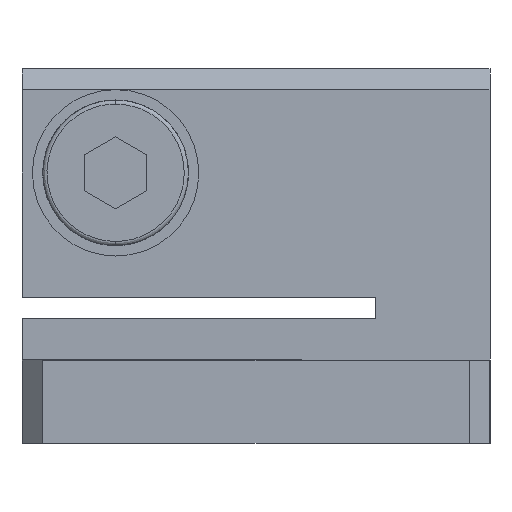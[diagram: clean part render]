
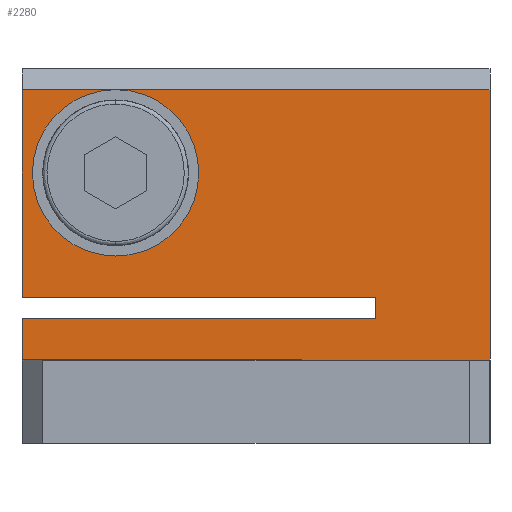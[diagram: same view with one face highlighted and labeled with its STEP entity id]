
A CAD part, left-side view. The second image highlights one B-rep face of the part: STEP entity #2280.
In plain terms, the highlighted planar face has unit normal (-1, 0, 0).
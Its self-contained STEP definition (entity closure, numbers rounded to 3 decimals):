
#342 = ORIENTED_EDGE ( 'NONE', *, *, #8670, .F. ) ;
#377 = ORIENTED_EDGE ( 'NONE', *, *, #3779, .F. ) ;
#407 = LINE ( 'NONE', #471, #2997 ) ;
#471 = CARTESIAN_POINT ( 'NONE',  ( -14.267, 16.675, -5. ) ) ;
#566 = ORIENTED_EDGE ( 'NONE', *, *, #1439, .F. ) ;
#598 = CARTESIAN_POINT ( 'NONE',  ( -14.267, 5.425, -5. ) ) ;
#647 = EDGE_CURVE ( 'NONE', #10931, #1846, #7256, .T. ) ;
#684 = VERTEX_POINT ( 'NONE', #2784 ) ;
#728 = ORIENTED_EDGE ( 'NONE', *, *, #12189, .F. ) ;
#845 = LINE ( 'NONE', #3344, #10820 ) ;
#938 = VECTOR ( 'NONE', #10177, 1000. ) ;
#1051 = ORIENTED_EDGE ( 'NONE', *, *, #10619, .F. ) ;
#1274 = VERTEX_POINT ( 'NONE', #4698 ) ;
#1439 = EDGE_CURVE ( 'NONE', #1846, #684, #2098, .T. ) ;
#1466 = CARTESIAN_POINT ( 'NONE',  ( -14.267, 27.925, 1.5 ) ) ;
#1648 = DIRECTION ( 'NONE',  ( 0., 0., 1. ) ) ;
#1750 = DIRECTION ( 'NONE',  ( 1., 0., 0. ) ) ;
#1806 = LINE ( 'NONE', #1466, #938 ) ;
#1846 = VERTEX_POINT ( 'NONE', #8809 ) ;
#2098 = LINE ( 'NONE', #6226, #9521 ) ;
#2127 = VECTOR ( 'NONE', #10898, 1000. ) ;
#2280 = ADVANCED_FACE ( 'NONE', ( #8410 ), #5587, .F. ) ;
#2784 = CARTESIAN_POINT ( 'NONE',  ( -14.267, 5.425, 8. ) ) ;
#2840 = ORIENTED_EDGE ( 'NONE', *, *, #7089, .F. ) ;
#2991 = VERTEX_POINT ( 'NONE', #11634 ) ;
#2997 = VECTOR ( 'NONE', #8188, 1000. ) ;
#3304 = AXIS2_PLACEMENT_3D ( 'NONE', #10570, #4805, #11537 ) ;
#3315 = VERTEX_POINT ( 'NONE', #8331 ) ;
#3344 = CARTESIAN_POINT ( 'NONE',  ( -14.267, 16.675, -3. ) ) ;
#3454 = EDGE_CURVE ( 'NONE', #2991, #1846, #9386, .T. ) ;
#3464 = CARTESIAN_POINT ( 'NONE',  ( -14.267, 23.425, 4. ) ) ;
#3779 = EDGE_CURVE ( 'NONE', #3315, #3812, #7709, .T. ) ;
#3812 = VERTEX_POINT ( 'NONE', #5599 ) ;
#3883 = DIRECTION ( 'NONE',  ( 0., 1., 0. ) ) ;
#3894 = EDGE_LOOP ( 'NONE', ( #566, #10730, #8812, #9985, #1051, #6078, #377, #728, #11529, #342, #2840 ) ) ;
#4158 = CARTESIAN_POINT ( 'NONE',  ( -14.267, 27.925, -3. ) ) ;
#4215 = CARTESIAN_POINT ( 'NONE',  ( -14.267, 27.925, -5. ) ) ;
#4438 = DIRECTION ( 'NONE',  ( 0., 0., 1. ) ) ;
#4505 = VECTOR ( 'NONE', #12253, 1000. ) ;
#4698 = CARTESIAN_POINT ( 'NONE',  ( -14.267, 27.925, -2. ) ) ;
#4805 = DIRECTION ( 'NONE',  ( -1., 0., 0. ) ) ;
#5275 = CIRCLE ( 'NONE', #7206, 4. ) ;
#5277 = DIRECTION ( 'NONE',  ( 0., -1., 0. ) ) ;
#5587 = PLANE ( 'NONE',  #6365 ) ;
#5599 = CARTESIAN_POINT ( 'NONE',  ( -14.267, 10.925, -2. ) ) ;
#5646 = VERTEX_POINT ( 'NONE', #4215 ) ;
#5763 = EDGE_CURVE ( 'NONE', #5646, #6830, #1806, .T. ) ;
#5811 = VERTEX_POINT ( 'NONE', #598 ) ;
#5874 = CARTESIAN_POINT ( 'NONE',  ( -14.267, 16.675, 8. ) ) ;
#6078 = ORIENTED_EDGE ( 'NONE', *, *, #10393, .F. ) ;
#6226 = CARTESIAN_POINT ( 'NONE',  ( -14.267, 16.675, 8. ) ) ;
#6365 = AXIS2_PLACEMENT_3D ( 'NONE', #9475, #1750, #8526 ) ;
#6760 = CARTESIAN_POINT ( 'NONE',  ( -14.267, 16.675, -2. ) ) ;
#6830 = VERTEX_POINT ( 'NONE', #4158 ) ;
#7089 = EDGE_CURVE ( 'NONE', #684, #5811, #11884, .T. ) ;
#7193 = DIRECTION ( 'NONE',  ( 0., -1., 0. ) ) ;
#7206 = AXIS2_PLACEMENT_3D ( 'NONE', #3464, #10193, #4438 ) ;
#7256 = LINE ( 'NONE', #5874, #2127 ) ;
#7379 = VECTOR ( 'NONE', #11208, 1000. ) ;
#7433 = CARTESIAN_POINT ( 'NONE',  ( -14.267, 10.925, -2.5 ) ) ;
#7690 = VECTOR ( 'NONE', #3883, 1000. ) ;
#7709 = LINE ( 'NONE', #7433, #9979 ) ;
#8188 = DIRECTION ( 'NONE',  ( 0., 1., 0. ) ) ;
#8264 = EDGE_CURVE ( 'NONE', #1846, #2991, #5275, .T. ) ;
#8331 = CARTESIAN_POINT ( 'NONE',  ( -14.267, 10.925, -3. ) ) ;
#8410 = FACE_OUTER_BOUND ( 'NONE', #3894, .T. ) ;
#8526 = DIRECTION ( 'NONE',  ( 0., 1., 0. ) ) ;
#8670 = EDGE_CURVE ( 'NONE', #5811, #5646, #407, .T. ) ;
#8809 = CARTESIAN_POINT ( 'NONE',  ( -14.267, 23.425, 8. ) ) ;
#8812 = ORIENTED_EDGE ( 'NONE', *, *, #8264, .F. ) ;
#9225 = CARTESIAN_POINT ( 'NONE',  ( -14.267, 27.925, 1.5 ) ) ;
#9386 = CIRCLE ( 'NONE', #3304, 4. ) ;
#9475 = CARTESIAN_POINT ( 'NONE',  ( -14.267, 5.425, -5. ) ) ;
#9521 = VECTOR ( 'NONE', #7193, 1000. ) ;
#9962 = LINE ( 'NONE', #6760, #7690 ) ;
#9979 = VECTOR ( 'NONE', #1648, 1000. ) ;
#9985 = ORIENTED_EDGE ( 'NONE', *, *, #647, .F. ) ;
#10177 = DIRECTION ( 'NONE',  ( 0., 0., 1. ) ) ;
#10193 = DIRECTION ( 'NONE',  ( -1., 0., 0. ) ) ;
#10393 = EDGE_CURVE ( 'NONE', #3812, #1274, #9962, .T. ) ;
#10570 = CARTESIAN_POINT ( 'NONE',  ( -14.267, 23.425, 4. ) ) ;
#10619 = EDGE_CURVE ( 'NONE', #1274, #10931, #12535, .T. ) ;
#10730 = ORIENTED_EDGE ( 'NONE', *, *, #3454, .F. ) ;
#10740 = CARTESIAN_POINT ( 'NONE',  ( -14.267, 27.925, 8. ) ) ;
#10820 = VECTOR ( 'NONE', #5277, 1000. ) ;
#10898 = DIRECTION ( 'NONE',  ( 0., -1., 0. ) ) ;
#10931 = VERTEX_POINT ( 'NONE', #10740 ) ;
#11208 = DIRECTION ( 'NONE',  ( 0., 0., 1. ) ) ;
#11529 = ORIENTED_EDGE ( 'NONE', *, *, #5763, .F. ) ;
#11537 = DIRECTION ( 'NONE',  ( 0., 0., 1. ) ) ;
#11634 = CARTESIAN_POINT ( 'NONE',  ( -14.267, 23.425, 0. ) ) ;
#11884 = LINE ( 'NONE', #12331, #4505 ) ;
#12189 = EDGE_CURVE ( 'NONE', #6830, #3315, #845, .T. ) ;
#12253 = DIRECTION ( 'NONE',  ( 0., 0., -1. ) ) ;
#12331 = CARTESIAN_POINT ( 'NONE',  ( -14.267, 5.425, 1.5 ) ) ;
#12535 = LINE ( 'NONE', #9225, #7379 ) ;
